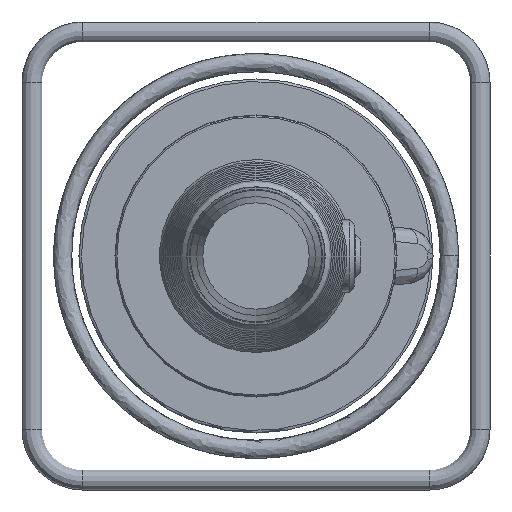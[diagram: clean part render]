
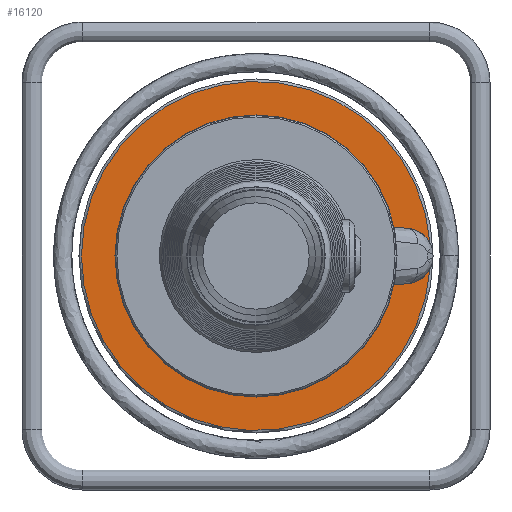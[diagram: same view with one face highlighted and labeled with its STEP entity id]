
A CAD part, left-side view. The second image highlights one B-rep face of the part: STEP entity #16120.
In plain terms, the highlighted planar face has unit normal (-1, 0, 0).
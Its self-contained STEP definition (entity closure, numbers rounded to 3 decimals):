
#680=CIRCLE('',#17076,22.);
#681=CIRCLE('',#17077,138.);
#682=CIRCLE('',#17078,22.);
#683=CIRCLE('',#17079,10.);
#684=CIRCLE('',#17080,91.5);
#685=CIRCLE('',#17081,10.);
#2430=PLANE('',#17075);
#3145=FACE_OUTER_BOUND('',#4189,.T.);
#4189=EDGE_LOOP('',(#14186,#14187,#14188,#14189,#14190,#14191,#14192,#14193));
#5615=LINE('',#33246,#6523);
#5616=LINE('',#33253,#6524);
#6523=VECTOR('',#19811,30.808);
#6524=VECTOR('',#19818,30.808);
#7807=VERTEX_POINT('',#33238);
#7808=VERTEX_POINT('',#33239);
#7809=VERTEX_POINT('',#33241);
#7810=VERTEX_POINT('',#33243);
#7811=VERTEX_POINT('',#33245);
#7812=VERTEX_POINT('',#33247);
#7813=VERTEX_POINT('',#33249);
#7814=VERTEX_POINT('',#33251);
#10004=EDGE_CURVE('',#7807,#7808,#680,.T.);
#10005=EDGE_CURVE('',#7809,#7808,#681,.T.);
#10006=EDGE_CURVE('',#7809,#7810,#682,.T.);
#10007=EDGE_CURVE('',#7810,#7811,#5615,.T.);
#10008=EDGE_CURVE('',#7811,#7812,#683,.T.);
#10009=EDGE_CURVE('',#7812,#7813,#684,.T.);
#10010=EDGE_CURVE('',#7813,#7814,#685,.T.);
#10011=EDGE_CURVE('',#7814,#7807,#5616,.T.);
#14186=ORIENTED_EDGE('',*,*,#10004,.T.);
#14187=ORIENTED_EDGE('',*,*,#10005,.F.);
#14188=ORIENTED_EDGE('',*,*,#10006,.T.);
#14189=ORIENTED_EDGE('',*,*,#10007,.T.);
#14190=ORIENTED_EDGE('',*,*,#10008,.T.);
#14191=ORIENTED_EDGE('',*,*,#10009,.T.);
#14192=ORIENTED_EDGE('',*,*,#10010,.T.);
#14193=ORIENTED_EDGE('',*,*,#10011,.T.);
#16120=ADVANCED_FACE('',(#3145),#2430,.T.);
#17075=AXIS2_PLACEMENT_3D('',#33237,#19803,#19804);
#17076=AXIS2_PLACEMENT_3D('',#33240,#19805,#19806);
#17077=AXIS2_PLACEMENT_3D('',#33242,#19807,#19808);
#17078=AXIS2_PLACEMENT_3D('',#33244,#19809,#19810);
#17079=AXIS2_PLACEMENT_3D('',#33248,#19812,#19813);
#17080=AXIS2_PLACEMENT_3D('',#33250,#19814,#19815);
#17081=AXIS2_PLACEMENT_3D('',#33252,#19816,#19817);
#19803=DIRECTION('center_axis',(-1.,0.,0.));
#19804=DIRECTION('ref_axis',(0.,1.,0.));
#19805=DIRECTION('center_axis',(1.,0.,0.));
#19806=DIRECTION('ref_axis',(0.,0.087,0.996));
#19807=DIRECTION('center_axis',(1.,0.,0.));
#19808=DIRECTION('ref_axis',(0.,0.,
1.));
#19809=DIRECTION('center_axis',(1.,0.,0.));
#19810=DIRECTION('ref_axis',(0.,0.087,0.996));
#19811=DIRECTION('',(0.,0.996,-0.087));
#19812=DIRECTION('center_axis',(-1.,0.,0.));
#19813=DIRECTION('ref_axis',(0.,0.087,0.996));
#19814=DIRECTION('center_axis',(1.,0.,0.));
#19815=DIRECTION('ref_axis',(0.,0.,
1.));
#19816=DIRECTION('center_axis',(-1.,0.,0.));
#19817=DIRECTION('ref_axis',(0.,0.934,-0.358));
#19818=DIRECTION('',(0.,-0.996,-0.087));
#33237=CARTESIAN_POINT('Origin',(-17.009,-0.004,
114.75));
#33238=CARTESIAN_POINT('',(-17.009,-119.922,21.916));
#33239=CARTESIAN_POINT('',(-17.009,-137.649,9.905));
#33240=CARTESIAN_POINT('Origin',(-17.009,-118.004,0.));
#33241=CARTESIAN_POINT('',(-17.009,-137.649,-9.905));
#33242=CARTESIAN_POINT('Origin',(-17.009,-0.004,
0.));
#33243=CARTESIAN_POINT('',(-17.009,-119.922,-21.916));
#33244=CARTESIAN_POINT('Origin',(-17.009,-118.004,0.));
#33245=CARTESIAN_POINT('',(-17.009,-89.231,-24.601));
#33246=CARTESIAN_POINT('',(-17.009,-66.352,-26.603));
#33247=CARTESIAN_POINT('',(-17.009,-88.088,-24.768));
#33248=CARTESIAN_POINT('Origin',(-17.009,-90.102,-34.563));
#33249=CARTESIAN_POINT('',(-17.009,-88.088,24.768));
#33250=CARTESIAN_POINT('Origin',(-17.009,-0.004,
0.));
#33251=CARTESIAN_POINT('',(-17.009,-89.231,24.601));
#33252=CARTESIAN_POINT('Origin',(-17.009,-90.102,34.563));
#33253=CARTESIAN_POINT('',(-17.009,-41.043,28.817));
